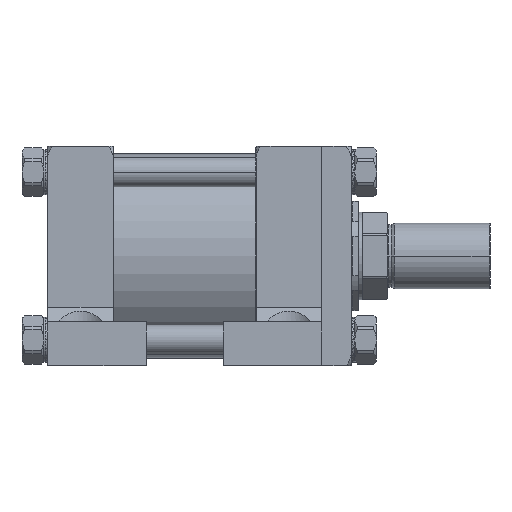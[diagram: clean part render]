
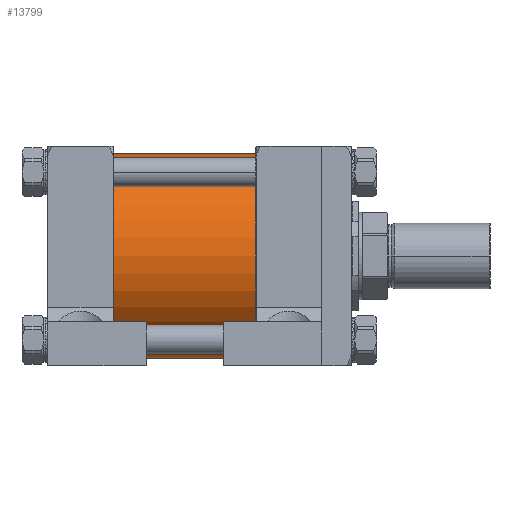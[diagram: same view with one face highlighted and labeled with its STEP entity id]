
A CAD part, front view. The second image highlights one B-rep face of the part: STEP entity #13799.
In plain terms, the highlighted cylindrical face has radius 88.9 mm (diameter 177.8 mm), a partial arc.
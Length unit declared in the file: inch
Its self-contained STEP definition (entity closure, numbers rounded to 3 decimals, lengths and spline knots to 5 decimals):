
#1391 = VERTEX_POINT ( 'NONE', #23751 ) ;
#1397 = AXIS2_PLACEMENT_3D ( 'NONE', #30916, #40326, #3465 ) ;
#2928 = CARTESIAN_POINT ( 'NONE',  ( -9.625, 0., -3.5 ) ) ;
#3465 = DIRECTION ( 'NONE',  ( 0., 0., -1. ) ) ;
#3507 = ORIENTED_EDGE ( 'NONE', *, *, #31719, .F. ) ;
#5306 = ORIENTED_EDGE ( 'NONE', *, *, #55429, .T. ) ;
#6332 = EDGE_CURVE ( 'NONE', #51929, #1391, #23672, .T. ) ;
#6621 = CYLINDRICAL_SURFACE ( 'NONE', #1397, 3.5 ) ;
#10235 = AXIS2_PLACEMENT_3D ( 'NONE', #30601, #15358, #40299 ) ;
#10647 = EDGE_LOOP ( 'NONE', ( #3507, #5306, #14535, #41475 ) ) ;
#13799 = ADVANCED_FACE ( 'NONE', ( #29458 ), #6621, .T. ) ;
#14220 = CIRCLE ( 'NONE', #10235, 3.5 ) ;
#14535 = ORIENTED_EDGE ( 'NONE', *, *, #6332, .T. ) ;
#15358 = DIRECTION ( 'NONE',  ( 1., 0., 0. ) ) ;
#21259 = DIRECTION ( 'NONE',  ( 1., 0., 0. ) ) ;
#22188 = CARTESIAN_POINT ( 'NONE',  ( -4.25, 0., 0. ) ) ;
#23672 = LINE ( 'NONE', #57687, #59278 ) ;
#23751 = CARTESIAN_POINT ( 'NONE',  ( -4.25, 0., -3.5 ) ) ;
#25123 = CARTESIAN_POINT ( 'NONE',  ( -4.25, 0., 3.5 ) ) ;
#25306 = VERTEX_POINT ( 'NONE', #53695 ) ;
#26267 = AXIS2_PLACEMENT_3D ( 'NONE', #22188, #21259, #31831 ) ;
#29458 = FACE_OUTER_BOUND ( 'NONE', #10647, .T. ) ;
#30601 = CARTESIAN_POINT ( 'NONE',  ( -9.625, 0., 0. ) ) ;
#30916 = CARTESIAN_POINT ( 'NONE',  ( -9.625, 0., 0. ) ) ;
#31719 = EDGE_CURVE ( 'NONE', #25306, #54128, #58062, .T. ) ;
#31831 = DIRECTION ( 'NONE',  ( 0., 1., 0. ) ) ;
#32735 = EDGE_CURVE ( 'NONE', #54128, #1391, #37200, .T. ) ;
#37200 = CIRCLE ( 'NONE', #26267, 3.5 ) ;
#40299 = DIRECTION ( 'NONE',  ( 0., 1., 0. ) ) ;
#40326 = DIRECTION ( 'NONE',  ( 1., 0., 0. ) ) ;
#41475 = ORIENTED_EDGE ( 'NONE', *, *, #32735, .F. ) ;
#47813 = CARTESIAN_POINT ( 'NONE',  ( -9.625, 0., 3.5 ) ) ;
#48066 = DIRECTION ( 'NONE',  ( 1., 0., 0. ) ) ;
#51929 = VERTEX_POINT ( 'NONE', #2928 ) ;
#53695 = CARTESIAN_POINT ( 'NONE',  ( -9.625, 0., 3.5 ) ) ;
#54128 = VERTEX_POINT ( 'NONE', #25123 ) ;
#54172 = VECTOR ( 'NONE', #61806, 39.37008 ) ;
#55429 = EDGE_CURVE ( 'NONE', #25306, #51929, #14220, .T. ) ;
#57687 = CARTESIAN_POINT ( 'NONE',  ( -9.625, 0., -3.5 ) ) ;
#58062 = LINE ( 'NONE', #47813, #54172 ) ;
#59278 = VECTOR ( 'NONE', #48066, 39.37008 ) ;
#61806 = DIRECTION ( 'NONE',  ( 1., 0., 0. ) ) ;
